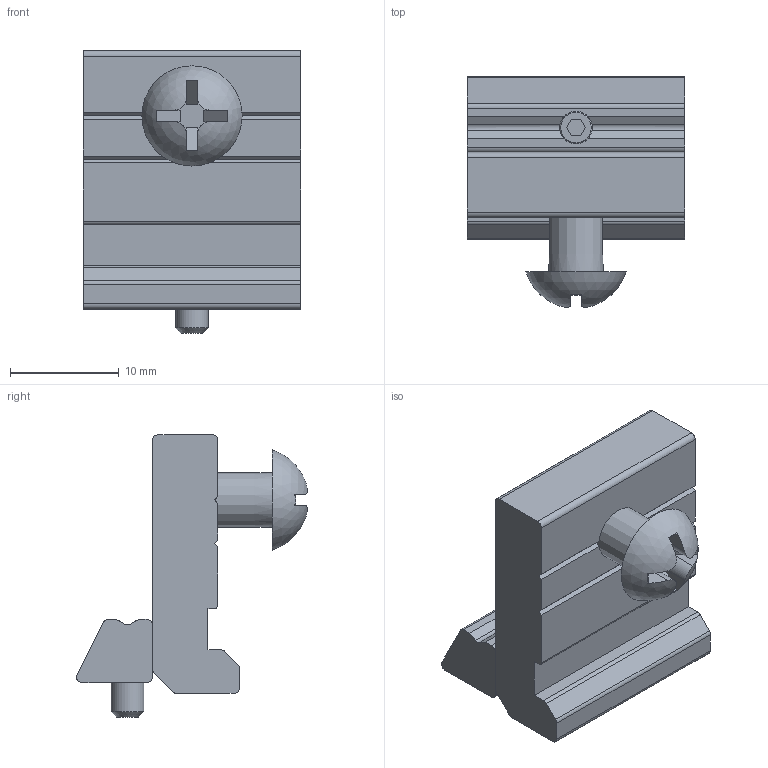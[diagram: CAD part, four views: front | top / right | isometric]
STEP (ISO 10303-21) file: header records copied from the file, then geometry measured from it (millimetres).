
FILE_DESCRIPTION(('STEP AP214'),'1');
FILE_NAME('PS3T-M5.stp','2021-12-27T10:12:28',(' '),(' '),'Spatial InterOp 3D',' ',' ');
FILE_SCHEMA(('AUTOMOTIVE_DESIGN { 1 0 10303 214 1 1 1 1 }'));
Length unit declared in the file: millimetre
Products named in the file (5): PS3T-M5; NW40; M3*8押しねじ; ねじ: 丸頭 - M5.0 x 10.0
Assembly tree (4 placements, depth 2):
  PS3T-M5
    PS3T-M5
    NW40
    M3*8押しねじ
    ねじ: 丸頭 - M5.0 x 10.0
Bounding box: 20 x 21.24 x 26 mm (x, y, z)
Volume: 3730.6 mm3; surface area: 2644 mm2
Topology: 4 solids, 4 shells, 96 faces, 254 edges, 166 vertices
Faces by surface type: plane 71, cylinder 21, cone 3, sphere 1
Full cylindrical faces by diameter (mm): 3 x2, 5 x1
Entity records: 3815 total; most frequent: CARTESIAN_POINT 554, DIRECTION 503, ORIENTED_EDGE 488, EDGE_CURVE 244, LINE 175, VECTOR 175, AXIS2_PLACEMENT_3D 164, VERTEX_POINT 163
